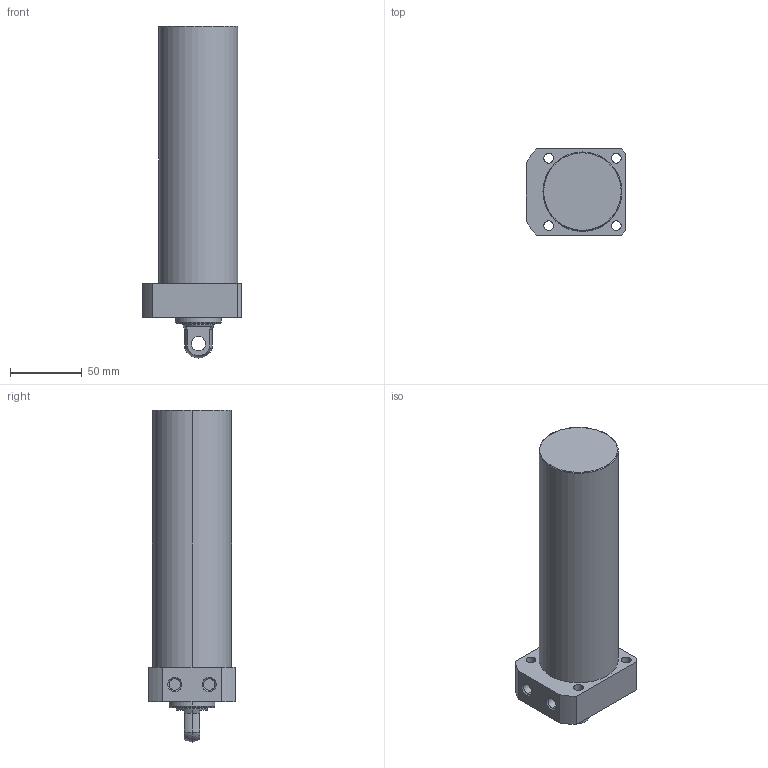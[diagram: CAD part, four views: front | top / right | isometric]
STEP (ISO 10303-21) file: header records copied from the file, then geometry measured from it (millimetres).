
FILE_DESCRIPTION (( 'STEP AP203' ), '1' );
FILE_NAME ('CLLR-055CP-150.STEP', '2019-12-17T12:44:04', ( '' ), ( '' ), 'SwSTEP 2.0', 'SolidWorks 2015', '' );
FILE_SCHEMA (( 'CONFIG_CONTROL_DESIGN' ));
Length unit declared in the file: millimetre
Products named in the file (1): CLLR-055CP-150
Bounding box: 69 x 60 x 231 mm (x, y, z)
Volume: 524797.3 mm3; surface area: 49147.1 mm2
Topology: 1 solids, 1 shells, 59 faces, 139 edges, 89 vertices
Faces by surface type: cylinder 29, plane 18, cone 8, torus 2, sphere 2
Entity records: 1822 total; most frequent: DIRECTION 331, CARTESIAN_POINT 300, ORIENTED_EDGE 278, EDGE_CURVE 139, AXIS2_PLACEMENT_3D 136, VERTEX_POINT 89, EDGE_LOOP 76, CIRCLE 76
